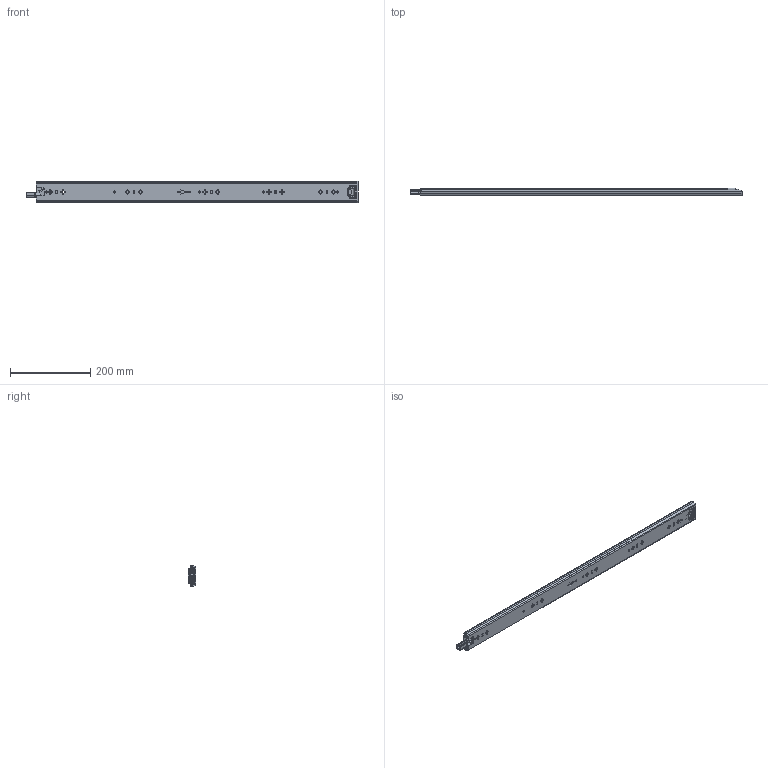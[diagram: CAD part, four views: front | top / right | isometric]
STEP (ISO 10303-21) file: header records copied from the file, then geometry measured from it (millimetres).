
FILE_DESCRIPTION((''),'2;1');
FILE_NAME('1053-3S-32ZUZHUANGTU_ASM','2022-08-25T',('jishu015'),(''),'PRO/ENGINEER BY PARAMETRIC TECHNOLOGY CORPORATION, 2010280','PRO/ENGINEER BY PARAMETRIC TECHNOLOGY CORPORATION, 2010280','');
FILE_SCHEMA(('CONFIG_CONTROL_DESIGN'));
Products named in the file (20): 1053-02-18WAIKE__________; 1053WEIJIAO__________; 1053-3S-24WAIKE___________ASM; 1053ZHUTIAO-175__________; 53-5-6GANZHU__________; 1053ZHUTIAO-175MM___________ASM; 1053-02-18ZHONGGUI__________; ZHONGGUIPEIJIAN________; ZHONGGUISUOKOU________; 1053-02-18ZHONGGUI___________ASM; 1053XIAOZHUJIA-14GE__________; 1053XIAOZHUJIA-14GE___________ASM; 1053-02-18NEIGUI__________; DAOPIAN______; PIAN______; 1053-3SBANJI123_____; JIAO-11_____; 50XINSUOKOU11____; 1053-02-18NEIGUI___________ASM; 1053-3S-32ZUZHUANGTU_ASM
Assembly tree (89 placements, depth 3):
  1053-3S-32ZUZHUANGTU_ASM
    1053-3S-24WAIKE___________ASM
      1053-02-18WAIKE__________
      1053WEIJIAO__________
    1053ZHUTIAO-175MM___________ASM  x2
      1053ZHUTIAO-175__________
      53-5-6GANZHU__________
    1053-02-18ZHONGGUI___________ASM
      1053-02-18ZHONGGUI__________
      ZHONGGUIPEIJIAN________
      ZHONGGUISUOKOU________
    1053XIAOZHUJIA-14GE___________ASM
      1053XIAOZHUJIA-14GE__________
      53-5-6GANZHU__________  x56
    1053-02-18NEIGUI___________ASM
      1053-02-18NEIGUI__________
      DAOPIAN______
      PIAN______
      1053-3SBANJI123_____
      JIAO-11_____
      50XINSUOKOU11____
Bounding box: 825.42 x 18.7 x 53 mm (x, y, z)
Volume: 304292.3 mm3; surface area: 352723.1 mm2
Topology: 99 solids, 99 shells, 2559 faces, 7412 edges, 4634 vertices
Faces by surface type: cylinder 1112, plane 1034, sphere 176, bspline 112, cone 86, extrusion 23, torus 16
Entity records: 83063 total; most frequent: CARTESIAN_POINT 20766, ORIENTED_EDGE 13244, DIRECTION 12780, EDGE_CURVE 6622, AXIS2_PLACEMENT_3D 4421, VERTEX_POINT 4282, VECTOR 3938, LINE 3915
